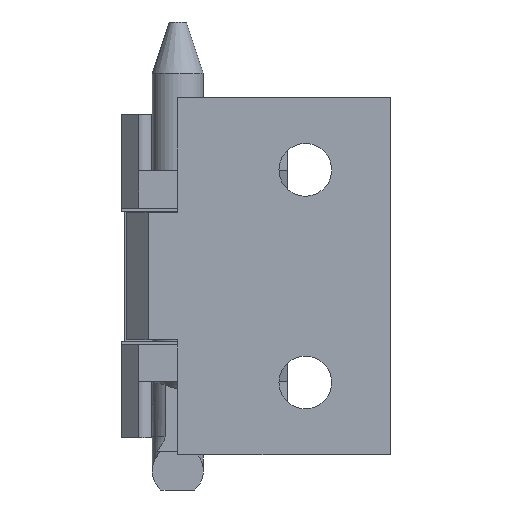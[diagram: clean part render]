
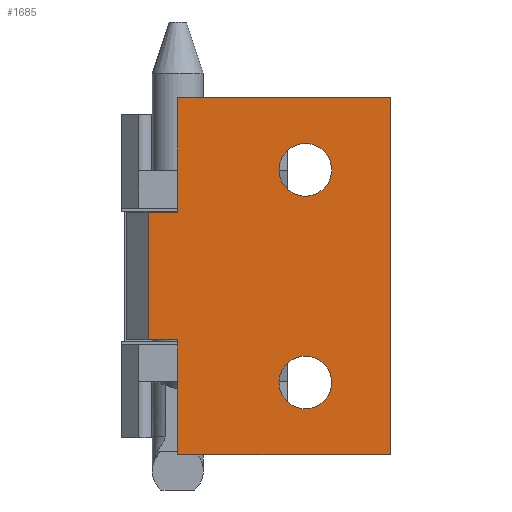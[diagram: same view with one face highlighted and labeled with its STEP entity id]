
A CAD part, front view. The second image highlights one B-rep face of the part: STEP entity #1685.
In plain terms, the highlighted planar face has unit normal (0, -1, 0).
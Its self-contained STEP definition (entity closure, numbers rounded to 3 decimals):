
#15 = CARTESIAN_POINT ( 'NONE',  ( -3.5, -20., 7.5 ) ) ;
#57 = EDGE_CURVE ( 'NONE', #971, #1539, #2405, .T. ) ;
#128 = DIRECTION ( 'NONE',  ( 0., 0., 1. ) ) ;
#205 = VECTOR ( 'NONE', #2701, 1000. ) ;
#213 = CARTESIAN_POINT ( 'NONE',  ( 15., -20., 12.5 ) ) ;
#215 = VECTOR ( 'NONE', #2179, 1000. ) ;
#245 = DIRECTION ( 'NONE',  ( 1., 0., 0. ) ) ;
#278 = DIRECTION ( 'NONE',  ( 1., 0., 0. ) ) ;
#302 = EDGE_CURVE ( 'NONE', #1539, #2420, #1002, .T. ) ;
#323 = ORIENTED_EDGE ( 'NONE', *, *, #2381, .T. ) ;
#337 = VECTOR ( 'NONE', #278, 1000. ) ;
#354 = EDGE_CURVE ( 'NONE', #2058, #2420, #2859, .T. ) ;
#366 = CARTESIAN_POINT ( 'NONE',  ( 0., -20., 21. ) ) ;
#408 = DIRECTION ( 'NONE',  ( 1., 0., 0. ) ) ;
#441 = DIRECTION ( 'NONE',  ( 0., 0., 1. ) ) ;
#456 = LINE ( 'NONE', #2236, #2188 ) ;
#499 = EDGE_CURVE ( 'NONE', #2216, #3094, #2402, .T. ) ;
#534 = CARTESIAN_POINT ( 'NONE',  ( 0., -20., 21. ) ) ;
#570 = FACE_BOUND ( 'NONE', #1379, .T. ) ;
#576 = CARTESIAN_POINT ( 'NONE',  ( 25., -20., 21. ) ) ;
#591 = ORIENTED_EDGE ( 'NONE', *, *, #302, .F. ) ;
#597 = ORIENTED_EDGE ( 'NONE', *, *, #354, .T. ) ;
#640 = DIRECTION ( 'NONE',  ( 0., 1., 0. ) ) ;
#660 = AXIS2_PLACEMENT_3D ( 'NONE', #2319, #1006, #1244 ) ;
#663 = CIRCLE ( 'NONE', #1145, 3.1 ) ;
#684 = DIRECTION ( 'NONE',  ( 1., 0., 0. ) ) ;
#817 = CARTESIAN_POINT ( 'NONE',  ( 15., -20., -9.4 ) ) ;
#823 = AXIS2_PLACEMENT_3D ( 'NONE', #213, #3101, #441 ) ;
#851 = CARTESIAN_POINT ( 'NONE',  ( 15., -20., -12.5 ) ) ;
#883 = CIRCLE ( 'NONE', #660, 3.1 ) ;
#911 = EDGE_LOOP ( 'NONE', ( #1225, #2525 ) ) ;
#950 = CARTESIAN_POINT ( 'NONE',  ( 0., -20., -7.5 ) ) ;
#971 = VERTEX_POINT ( 'NONE', #366 ) ;
#974 = VECTOR ( 'NONE', #245, 1000. ) ;
#1002 = LINE ( 'NONE', #576, #215 ) ;
#1006 = DIRECTION ( 'NONE',  ( 0., 1., 0. ) ) ;
#1108 = DIRECTION ( 'NONE',  ( 0., 0., 1. ) ) ;
#1138 = EDGE_CURVE ( 'NONE', #3148, #3062, #456, .T. ) ;
#1145 = AXIS2_PLACEMENT_3D ( 'NONE', #851, #1908, #1108 ) ;
#1160 = VECTOR ( 'NONE', #408, 1000. ) ;
#1179 = VERTEX_POINT ( 'NONE', #2797 ) ;
#1189 = ORIENTED_EDGE ( 'NONE', *, *, #3395, .T. ) ;
#1225 = ORIENTED_EDGE ( 'NONE', *, *, #1386, .T. ) ;
#1244 = DIRECTION ( 'NONE',  ( 0., 0., 1. ) ) ;
#1263 = ORIENTED_EDGE ( 'NONE', *, *, #3076, .T. ) ;
#1289 = ORIENTED_EDGE ( 'NONE', *, *, #57, .F. ) ;
#1291 = CARTESIAN_POINT ( 'NONE',  ( 0., -20., -7.5 ) ) ;
#1334 = CARTESIAN_POINT ( 'NONE',  ( -3.5, -20., -7.5 ) ) ;
#1379 = EDGE_LOOP ( 'NONE', ( #1263, #1189 ) ) ;
#1386 = EDGE_CURVE ( 'NONE', #3094, #2216, #883, .T. ) ;
#1466 = ORIENTED_EDGE ( 'NONE', *, *, #2849, .T. ) ;
#1486 = DIRECTION ( 'NONE',  ( 0., 1., 0. ) ) ;
#1490 = CARTESIAN_POINT ( 'NONE',  ( 25., -20., -21. ) ) ;
#1504 = ORIENTED_EDGE ( 'NONE', *, *, #2668, .T. ) ;
#1539 = VERTEX_POINT ( 'NONE', #3440 ) ;
#1680 = DIRECTION ( 'NONE',  ( 0., 0., -1. ) ) ;
#1685 = ADVANCED_FACE ( 'NONE', ( #2680, #570, #3416 ), #3259, .F. ) ;
#1771 = CARTESIAN_POINT ( 'NONE',  ( 0., -20., 7.5 ) ) ;
#1861 = CARTESIAN_POINT ( 'NONE',  ( -6., -20., 21. ) ) ;
#1893 = LINE ( 'NONE', #534, #205 ) ;
#1908 = DIRECTION ( 'NONE',  ( 0., 1., 0. ) ) ;
#1997 = CARTESIAN_POINT ( 'NONE',  ( 15., -20., -12.5 ) ) ;
#2039 = CARTESIAN_POINT ( 'NONE',  ( 15., -20., 9.4 ) ) ;
#2058 = VERTEX_POINT ( 'NONE', #2133 ) ;
#2116 = LINE ( 'NONE', #2212, #3383 ) ;
#2133 = CARTESIAN_POINT ( 'NONE',  ( 0., -20., -21. ) ) ;
#2179 = DIRECTION ( 'NONE',  ( 0., 0., -1. ) ) ;
#2188 = VECTOR ( 'NONE', #684, 1000. ) ;
#2212 = CARTESIAN_POINT ( 'NONE',  ( 0., -20., 21. ) ) ;
#2216 = VERTEX_POINT ( 'NONE', #2039 ) ;
#2236 = CARTESIAN_POINT ( 'NONE',  ( 0., -20., 7.5 ) ) ;
#2262 = VECTOR ( 'NONE', #3322, 1000. ) ;
#2268 = EDGE_CURVE ( 'NONE', #3062, #971, #1893, .T. ) ;
#2319 = CARTESIAN_POINT ( 'NONE',  ( 15., -20., 12.5 ) ) ;
#2381 = EDGE_CURVE ( 'NONE', #3148, #2692, #3065, .T. ) ;
#2402 = CIRCLE ( 'NONE', #823, 3.1 ) ;
#2405 = LINE ( 'NONE', #1861, #337 ) ;
#2420 = VERTEX_POINT ( 'NONE', #1490 ) ;
#2455 = LINE ( 'NONE', #1291, #974 ) ;
#2496 = CARTESIAN_POINT ( 'NONE',  ( -3.5, -20., 21. ) ) ;
#2503 = ORIENTED_EDGE ( 'NONE', *, *, #1138, .F. ) ;
#2525 = ORIENTED_EDGE ( 'NONE', *, *, #499, .T. ) ;
#2668 = EDGE_CURVE ( 'NONE', #2692, #3147, #2455, .T. ) ;
#2680 = FACE_BOUND ( 'NONE', #911, .T. ) ;
#2689 = EDGE_LOOP ( 'NONE', ( #2503, #323, #1504, #1466, #597, #591, #1289, #2881 ) ) ;
#2690 = CARTESIAN_POINT ( 'NONE',  ( -6., -20., -21. ) ) ;
#2692 = VERTEX_POINT ( 'NONE', #1334 ) ;
#2693 = CARTESIAN_POINT ( 'NONE',  ( -6., -20., 21. ) ) ;
#2701 = DIRECTION ( 'NONE',  ( 0., 0., 1. ) ) ;
#2787 = CARTESIAN_POINT ( 'NONE',  ( 15., -20., 15.6 ) ) ;
#2797 = CARTESIAN_POINT ( 'NONE',  ( 15., -20., -15.6 ) ) ;
#2806 = DIRECTION ( 'NONE',  ( 0., 0., 1. ) ) ;
#2849 = EDGE_CURVE ( 'NONE', #3147, #2058, #2116, .T. ) ;
#2857 = AXIS2_PLACEMENT_3D ( 'NONE', #1997, #1486, #2806 ) ;
#2859 = LINE ( 'NONE', #2690, #1160 ) ;
#2881 = ORIENTED_EDGE ( 'NONE', *, *, #2268, .F. ) ;
#2940 = CIRCLE ( 'NONE', #2857, 3.1 ) ;
#2949 = AXIS2_PLACEMENT_3D ( 'NONE', #2693, #640, #128 ) ;
#3062 = VERTEX_POINT ( 'NONE', #1771 ) ;
#3065 = LINE ( 'NONE', #2496, #2262 ) ;
#3076 = EDGE_CURVE ( 'NONE', #3164, #1179, #2940, .T. ) ;
#3094 = VERTEX_POINT ( 'NONE', #2787 ) ;
#3101 = DIRECTION ( 'NONE',  ( 0., 1., 0. ) ) ;
#3147 = VERTEX_POINT ( 'NONE', #950 ) ;
#3148 = VERTEX_POINT ( 'NONE', #15 ) ;
#3164 = VERTEX_POINT ( 'NONE', #817 ) ;
#3259 = PLANE ( 'NONE',  #2949 ) ;
#3322 = DIRECTION ( 'NONE',  ( 0., 0., -1. ) ) ;
#3383 = VECTOR ( 'NONE', #1680, 1000. ) ;
#3395 = EDGE_CURVE ( 'NONE', #1179, #3164, #663, .T. ) ;
#3416 = FACE_OUTER_BOUND ( 'NONE', #2689, .T. ) ;
#3440 = CARTESIAN_POINT ( 'NONE',  ( 25., -20., 21. ) ) ;
